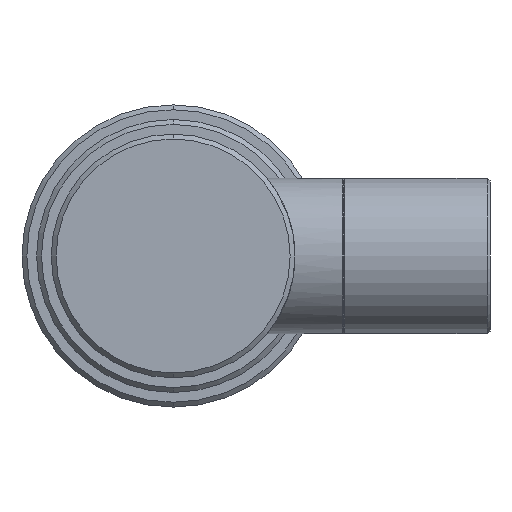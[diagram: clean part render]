
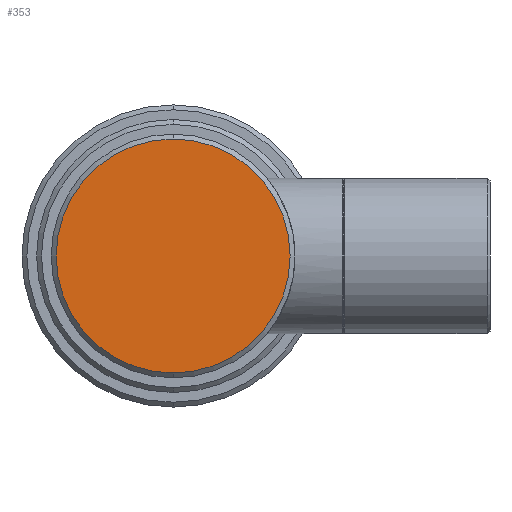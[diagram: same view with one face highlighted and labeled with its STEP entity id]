
A CAD part, left-side view. The second image highlights one B-rep face of the part: STEP entity #353.
In plain terms, the highlighted planar face has unit normal (-1, 0, 0).
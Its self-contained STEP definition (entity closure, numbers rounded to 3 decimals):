
#11 = CARTESIAN_POINT ( 'NONE',  ( -35.613, 131.305, 0. ) ) ;
#72 = CARTESIAN_POINT ( 'NONE',  ( -35.613, 131.305, -12. ) ) ;
#92 = AXIS2_PLACEMENT_3D ( 'NONE', #678, #987, #407 ) ;
#167 = EDGE_CURVE ( 'NONE', #637, #798, #315, .T. ) ;
#180 = EDGE_LOOP ( 'NONE', ( #840, #715 ) ) ;
#315 = CIRCLE ( 'NONE', #92, 12. ) ;
#353 = ADVANCED_FACE ( 'NONE', ( #809 ), #958, .T. ) ;
#407 = DIRECTION ( 'NONE',  ( 0., 0., -1. ) ) ;
#500 = CIRCLE ( 'NONE', #531, 12. ) ;
#531 = AXIS2_PLACEMENT_3D ( 'NONE', #11, #596, #801 ) ;
#533 = DIRECTION ( 'NONE',  ( 0., 0., 1. ) ) ;
#596 = DIRECTION ( 'NONE',  ( 1., 0., 0. ) ) ;
#637 = VERTEX_POINT ( 'NONE', #72 ) ;
#678 = CARTESIAN_POINT ( 'NONE',  ( -35.613, 131.305, 0. ) ) ;
#715 = ORIENTED_EDGE ( 'NONE', *, *, #829, .F. ) ;
#794 = CARTESIAN_POINT ( 'NONE',  ( -35.613, 131.305, 12. ) ) ;
#798 = VERTEX_POINT ( 'NONE', #794 ) ;
#801 = DIRECTION ( 'NONE',  ( 0., 0., -1. ) ) ;
#809 = FACE_OUTER_BOUND ( 'NONE', #180, .T. ) ;
#829 = EDGE_CURVE ( 'NONE', #798, #637, #500, .T. ) ;
#840 = ORIENTED_EDGE ( 'NONE', *, *, #167, .F. ) ;
#882 = CARTESIAN_POINT ( 'NONE',  ( -35.613, 131.305, 0. ) ) ;
#958 = PLANE ( 'NONE',  #1085 ) ;
#987 = DIRECTION ( 'NONE',  ( 1., 0., 0. ) ) ;
#1085 = AXIS2_PLACEMENT_3D ( 'NONE', #882, #1197, #533 ) ;
#1197 = DIRECTION ( 'NONE',  ( -1., 0., 0. ) ) ;
